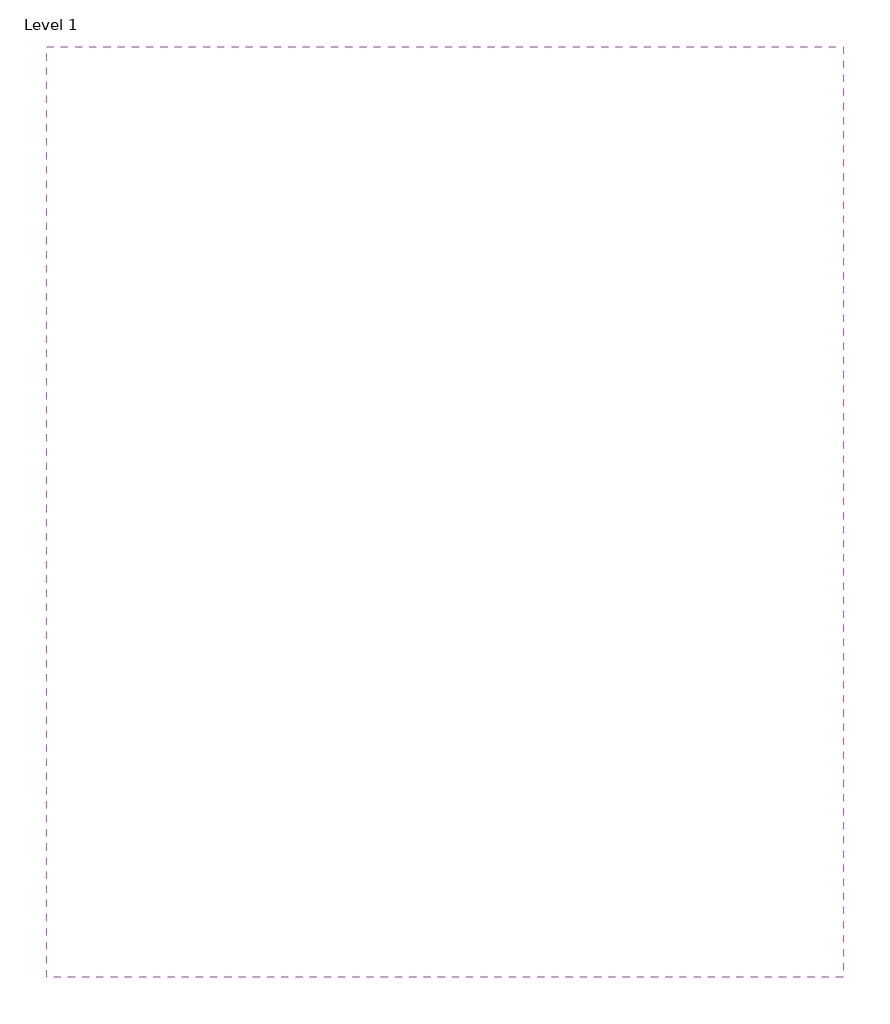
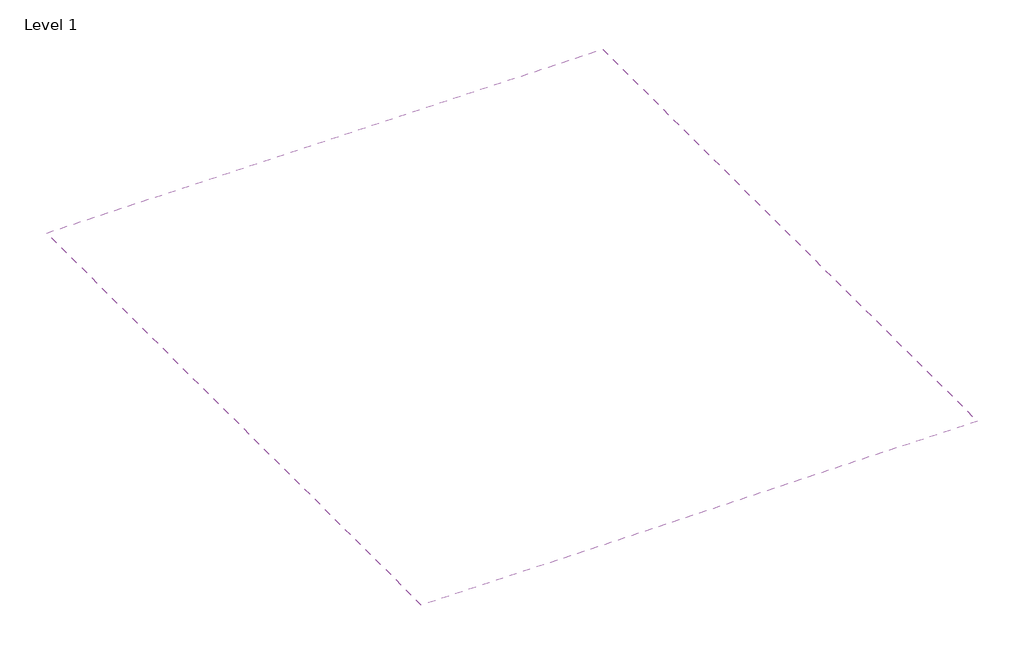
# One storey, incomplete: 1 covering.
"""IFC4 building model written with IfcOpenShell, lengths in millimetres."""

from ifc_helpers import new_model, si_unit, frame, origin, place, context, project, spatial, polyline, outline, extrude, element, save

model = new_model("IFC4")

# Units and contexts
model_context = context("Model", 3, world=origin())
ifc_project = project(units=[si_unit("LENGTHUNIT", "METRE", prefix="MILLI")], contexts=[model_context])

# Site, building, storey
site = spatial("IfcSite", under=ifc_project)
building = spatial("IfcBuilding", under=site)
storey = spatial("IfcBuildingStorey", under=building, Name="Level 1", Elevation=0.0)

# Covering
placement = place(None, origin())
element("IfcCovering", 1, ObjectType="Plain", at=placement, inside=storey, context=model_context, shape_type="SweptSolid", body=[
    extrude(outline(polyline([(8375.8623048, 13754.3698314), (8375.8623048, -145.6301686), (-3524.1376952, -145.6301686), (-3524.1376952, 13754.3698314), (8375.8623048, 13754.3698314)])), frame((0.0, 0.0, 2600.0), z_axis=(0.0, 0.0, 1.0), x_axis=(1.0, 0.0, 0.0)), (0.0, 0.0, 1.0), 57.0),
])

save(model, "model.ifc")
